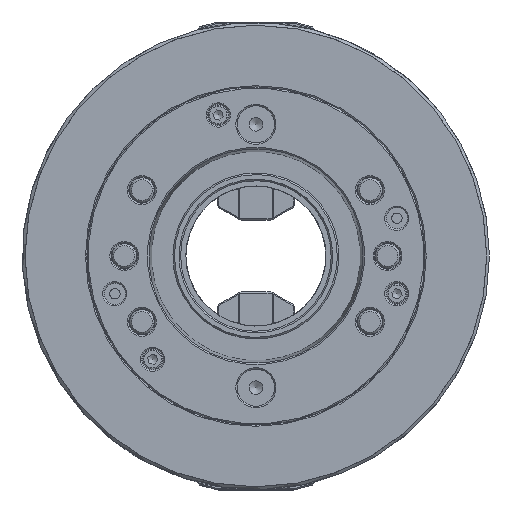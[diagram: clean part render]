
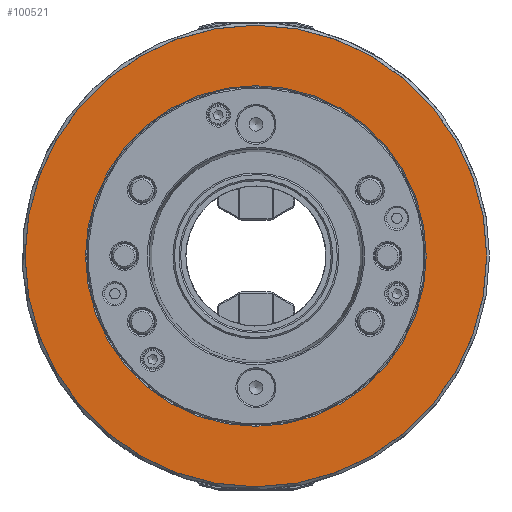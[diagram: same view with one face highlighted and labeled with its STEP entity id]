
A CAD part, front view. The second image highlights one B-rep face of the part: STEP entity #100521.
In plain terms, the highlighted planar face has unit normal (0, -1, 0).
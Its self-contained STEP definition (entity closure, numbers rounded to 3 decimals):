
#28025=PLANE('',#106743);
#29747=FACE_BOUND('',#38278,.T.);
#33014=FACE_OUTER_BOUND('',#38277,.T.);
#38277=EDGE_LOOP('',(#84759));
#38278=EDGE_LOOP('',(#84760));
#40703=CIRCLE('',#106744,150.193);
#40704=CIRCLE('',#106745,110.861);
#48481=VERTEX_POINT('',#162716);
#48482=VERTEX_POINT('',#162718);
#61587=EDGE_CURVE('',#48481,#48481,#40703,.T.);
#61588=EDGE_CURVE('',#48482,#48482,#40704,.T.);
#84759=ORIENTED_EDGE('',*,*,#61587,.F.);
#84760=ORIENTED_EDGE('',*,*,#61588,.F.);
#100521=ADVANCED_FACE('',(#33014,#29747),#28025,.F.);
#106743=AXIS2_PLACEMENT_3D('',#162715,#126779,#126780);
#106744=AXIS2_PLACEMENT_3D('',#162717,#126781,#126782);
#106745=AXIS2_PLACEMENT_3D('',#162719,#126783,#126784);
#126779=DIRECTION('center_axis',(0.,1.,0.));
#126780=DIRECTION('ref_axis',(0.,0.,1.));
#126781=DIRECTION('center_axis',(0.,1.,0.));
#126782=DIRECTION('ref_axis',(0.,0.,1.));
#126783=DIRECTION('center_axis',(0.,-1.,0.));
#126784=DIRECTION('ref_axis',(0.,0.,1.));
#162715=CARTESIAN_POINT('Origin',(0.,0.,-110.));
#162716=CARTESIAN_POINT('',(0.,0.,-150.193));
#162717=CARTESIAN_POINT('Origin',(0.,0.,0.));
#162718=CARTESIAN_POINT('',(0.,0.,-110.861));
#162719=CARTESIAN_POINT('Origin',(0.,0.,0.));
